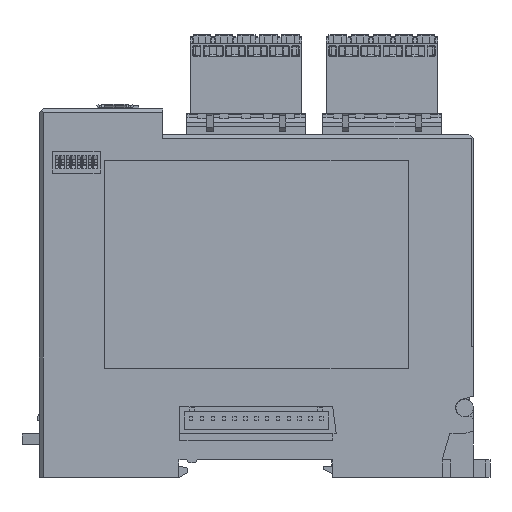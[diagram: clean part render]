
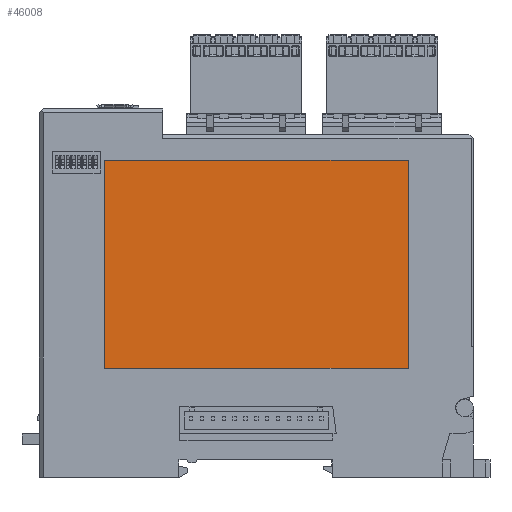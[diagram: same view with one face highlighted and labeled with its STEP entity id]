
A CAD part, left-side view. The second image highlights one B-rep face of the part: STEP entity #46008.
In plain terms, the highlighted planar face has unit normal (-1, 0, 0).
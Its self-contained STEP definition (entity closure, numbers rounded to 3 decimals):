
#5449 = ORIENTED_EDGE ( 'NONE', *, *, #76552, .T. ) ;
#6097 = LINE ( 'NONE', #71209, #71957 ) ;
#7009 = VERTEX_POINT ( 'NONE', #35123 ) ;
#12511 = ORIENTED_EDGE ( 'NONE', *, *, #53788, .T. ) ;
#20817 = EDGE_CURVE ( 'NONE', #7009, #52798, #6097, .T. ) ;
#21009 = EDGE_LOOP ( 'NONE', ( #12511, #68723, #5449, #83598 ) ) ;
#22440 = DIRECTION ( 'NONE',  ( 0., 0., 1. ) ) ;
#26829 = DIRECTION ( 'NONE',  ( 0., 0., -1. ) ) ;
#27488 = CARTESIAN_POINT ( 'NONE',  ( -14.7, 35.01, 30.55 ) ) ;
#30621 = CARTESIAN_POINT ( 'NONE',  ( -14.7, 0., 0. ) ) ;
#33324 = LINE ( 'NONE', #91257, #62726 ) ;
#35123 = CARTESIAN_POINT ( 'NONE',  ( -14.7, 35.01, 30.55 ) ) ;
#35195 = LINE ( 'NONE', #27488, #77277 ) ;
#41464 = LINE ( 'NONE', #92623, #81211 ) ;
#46008 = ADVANCED_FACE ( 'NONE', ( #52324 ), #80811, .T. ) ;
#47813 = DIRECTION ( 'NONE',  ( 0., 0., 1. ) ) ;
#49960 = VERTEX_POINT ( 'NONE', #88105 ) ;
#52324 = FACE_OUTER_BOUND ( 'NONE', #21009, .T. ) ;
#52798 = VERTEX_POINT ( 'NONE', #76215 ) ;
#53788 = EDGE_CURVE ( 'NONE', #52798, #49960, #41464, .T. ) ;
#56457 = CARTESIAN_POINT ( 'NONE',  ( -14.7, -35., 30.55 ) ) ;
#62726 = VECTOR ( 'NONE', #47813, 1000. ) ;
#64609 = DIRECTION ( 'NONE',  ( 0., -1., 0. ) ) ;
#68723 = ORIENTED_EDGE ( 'NONE', *, *, #84365, .T. ) ;
#71209 = CARTESIAN_POINT ( 'NONE',  ( -14.7, 35.01, -17.46 ) ) ;
#71957 = VECTOR ( 'NONE', #26829, 1000. ) ;
#76215 = CARTESIAN_POINT ( 'NONE',  ( -14.7, 35.01, -17.46 ) ) ;
#76552 = EDGE_CURVE ( 'NONE', #94831, #7009, #35195, .T. ) ;
#77277 = VECTOR ( 'NONE', #86813, 1000. ) ;
#80811 = PLANE ( 'NONE',  #94958 ) ;
#81211 = VECTOR ( 'NONE', #64609, 1000. ) ;
#83598 = ORIENTED_EDGE ( 'NONE', *, *, #20817, .T. ) ;
#84365 = EDGE_CURVE ( 'NONE', #49960, #94831, #33324, .T. ) ;
#86813 = DIRECTION ( 'NONE',  ( 0., 1., 0. ) ) ;
#88105 = CARTESIAN_POINT ( 'NONE',  ( -14.7, -35., -17.46 ) ) ;
#89483 = DIRECTION ( 'NONE',  ( -1., 0., 0. ) ) ;
#91257 = CARTESIAN_POINT ( 'NONE',  ( -14.7, -35., -17.46 ) ) ;
#92623 = CARTESIAN_POINT ( 'NONE',  ( -14.7, 35.01, -17.46 ) ) ;
#94831 = VERTEX_POINT ( 'NONE', #56457 ) ;
#94958 = AXIS2_PLACEMENT_3D ( 'NONE', #30621, #89483, #22440 ) ;
